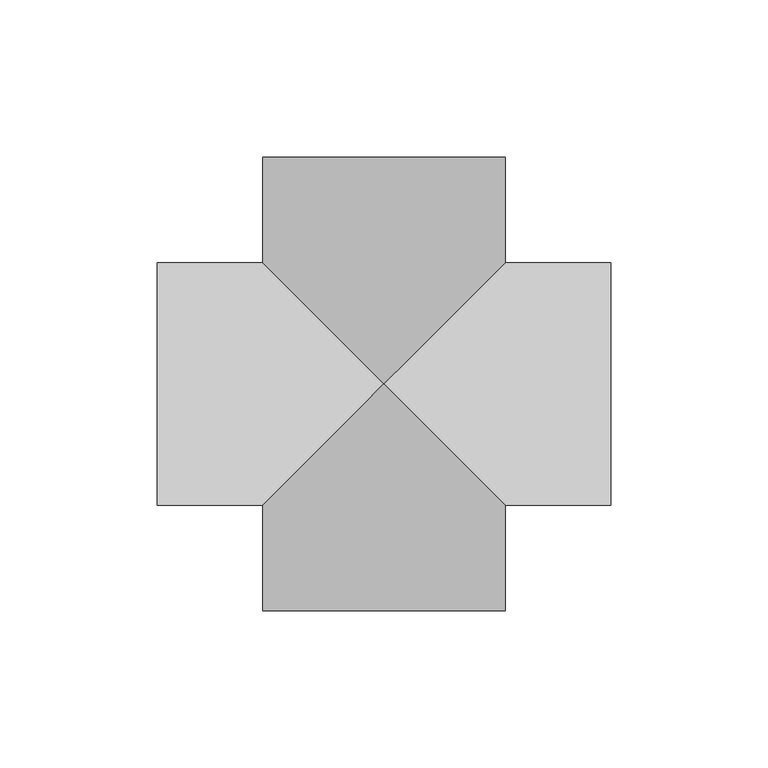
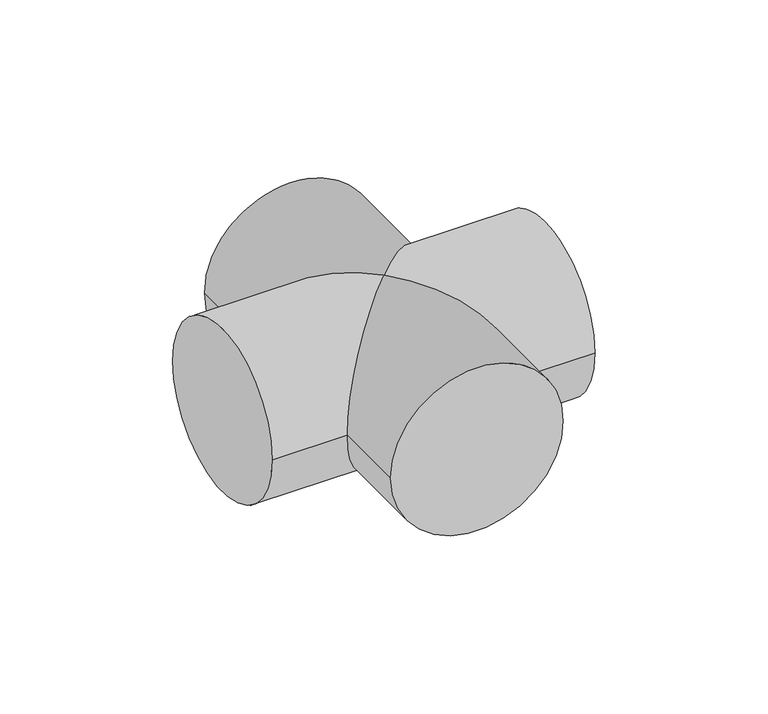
"""IFC4 building model written with IfcOpenShell, lengths in millimetres: pipe fitting geometry, 01051068 : Cruces."""

from ifc_helpers import new_model, si_unit, frame, origin, place, context, project, spatial, circle_curve, ellipse_curve, source, transform, mapped, element, save
from ifc_brep_helpers import plane_surface, cylinder_surface, advanced_brep


def pipe_fitting_58a56537(model_context):
    return source(origin(), model_context, "Body", "AdvancedBrep", [
        advanced_brep(
        [(-38.5, 72.0, 0.0), (38.5, 72.0, 0.0), (-38.5, -72.0, 0.0), (38.5, -72.0, 0.0), (-38.5, 38.5, 0.0), (0.0, 0.0, 38.5), (38.5, 38.5, 0.0), (38.5, -38.5, 0.0), (-38.5, -38.5, 0.0), (0.0, 0.0, -38.5), (72.0, 38.5, 0.0), (72.0, -38.5, 0.0), (-72.0, 38.5, 0.0), (-72.0, -38.5, 0.0)],
        [
            (0, 1, circle_curve(frame((0.0, 72.0, 0.0), z_axis=(0.0, 1.0, 0.0), x_axis=(1.0, 0.0, 0.0)), 38.5)),
            (1, 0, circle_curve(frame((0.0, 72.0, 0.0), z_axis=(0.0, 1.0, 0.0), x_axis=(1.0, 0.0, 0.0)), 38.5)),
            (2, 3, circle_curve(frame((0.0, -72.0, 0.0), z_axis=(0.0, -1.0, 0.0), x_axis=(1.0, 0.0, 0.0)), 38.5)),
            (3, 2, circle_curve(frame((0.0, -72.0, 0.0), z_axis=(0.0, -1.0, 0.0), x_axis=(1.0, 0.0, 0.0)), 38.5)),
            (0, 4),
            (4, 5, ellipse_curve(frame((0.0, 0.0, 0.0), z_axis=(0.7071067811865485, 0.7071067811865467, 0.0), x_axis=(-0.7071067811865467, 0.7071067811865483, 0.0)), 54.4472222, 38.5)),
            (5, 6, ellipse_curve(frame((0.0, 0.0, 0.0), z_axis=(-0.7071067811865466, 0.7071067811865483, 0.0), x_axis=(0.7071067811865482, 0.7071067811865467, 0.0)), 54.4472222, 38.5)),
            (6, 1),
            (3, 7),
            (7, 5, ellipse_curve(frame((0.0, 0.0, 0.0), z_axis=(-0.7071067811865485, -0.7071067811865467, 0.0), x_axis=(-0.7071067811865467, 0.7071067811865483, 0.0)), 54.4472222, 38.5)),
            (5, 8, ellipse_curve(frame((0.0, 0.0, 0.0), z_axis=(0.7071067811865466, -0.7071067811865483, 0.0), x_axis=(0.7071067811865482, 0.7071067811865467, 0.0)), 54.4472222, 38.5)),
            (8, 2),
            (6, 9, ellipse_curve(frame((0.0, 0.0, 0.0), z_axis=(-0.7071067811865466, 0.7071067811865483, 0.0), x_axis=(0.7071067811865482, 0.7071067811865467, 0.0)), 54.4472222, 38.5)),
            (9, 4, ellipse_curve(frame((0.0, 0.0, 0.0), z_axis=(0.7071067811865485, 0.7071067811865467, 0.0), x_axis=(-0.7071067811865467, 0.7071067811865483, 0.0)), 54.4472222, 38.5)),
            (8, 9, ellipse_curve(frame((0.0, 0.0, 0.0), z_axis=(0.7071067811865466, -0.7071067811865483, 0.0), x_axis=(0.7071067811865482, 0.7071067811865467, 0.0)), 54.4472222, 38.5)),
            (9, 7, ellipse_curve(frame((0.0, 0.0, 0.0), z_axis=(-0.7071067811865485, -0.7071067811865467, 0.0), x_axis=(-0.7071067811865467, 0.7071067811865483, 0.0)), 54.4472222, 38.5)),
            (10, 11, circle_curve(frame((72.0, 0.0, 0.0), z_axis=(1.0, 0.0, 0.0), x_axis=(0.0, -1.0, 0.0)), 38.5)),
            (11, 10, circle_curve(frame((72.0, 0.0, 0.0), z_axis=(1.0, 0.0, 0.0), x_axis=(0.0, -1.0, 0.0)), 38.5)),
            (12, 13, circle_curve(frame((-72.0, 0.0, 0.0), z_axis=(-1.0, 0.0, 0.0), x_axis=(0.0, -1.0, 0.0)), 38.5)),
            (13, 12, circle_curve(frame((-72.0, 0.0, 0.0), z_axis=(-1.0, 0.0, 0.0), x_axis=(0.0, -1.0, 0.0)), 38.5)),
            (10, 6),
            (7, 11),
            (13, 8),
            (4, 12),
        ],
        [
            plane_surface(frame((0.0, 72.0, 0.0), z_axis=(0.0, 1.0, 0.0), x_axis=(0.0, 0.0, 1.0))),
            plane_surface(frame((0.0, -72.0, 0.0), z_axis=(0.0, -1.0, 0.0), x_axis=(0.0, 0.0, 1.0))),
            cylinder_surface(frame((0.0, 72.0, 0.0), z_axis=(0.0, 1.0, 0.0), x_axis=(1.0, 0.0, 0.0)), 38.5),
            plane_surface(frame((72.0, 0.0, 0.0), z_axis=(1.0, 0.0, 0.0), x_axis=(0.0, 0.0, 1.0))),
            plane_surface(frame((-72.0, 0.0, 0.0), z_axis=(-1.0, 0.0, 0.0), x_axis=(0.0, 0.0, 1.0))),
            cylinder_surface(frame((72.0, 0.0, 0.0), z_axis=(1.0, 0.0, 0.0), x_axis=(0.0, -1.0, 0.0)), 38.5),
        ],
        [
            (0, [[1, 2]]),
            (1, [[3, 4]]),
            (2, [[-1, 5, 6, 7, 8]]),
            (2, [[-4, 9, 10, 11, 12]]),
            (2, [[-2, -8, 13, 14, -5]]),
            (2, [[-3, -12, 15, 16, -9]]),
            (3, [[17, 18]]),
            (4, [[19, 20]]),
            (5, [[-17, 21, -7, -10, 22]]),
            (5, [[-20, 23, -11, -6, 24]]),
            (5, [[-18, -22, -16, -13, -21]]),
            (5, [[-19, -24, -14, -15, -23]]),
        ],
    ),
    ])


if __name__ == "__main__":
    model = new_model("IFC4")
    model_context = context("Model", 3, world=origin())
    ifc_project = project(units=[si_unit("LENGTHUNIT", "METRE", prefix="MILLI")], contexts=[model_context])
    site = spatial("IfcSite", under=ifc_project)
    building = spatial("IfcBuilding", under=site)
    placement = place(None, origin())
    pipe_fitting_shape = pipe_fitting_58a56537(model_context)
    element("IfcPipeFitting", 1, ObjectType="01051068 : Cruces", at=placement, inside=building, context=model_context, shape_type="MappedRepresentation", body=[
        mapped(pipe_fitting_shape, transform((0.0, 0.0, 0.0), x_axis=(1.0, 0.0, 0.0), y_axis=(0.0, 1.0, 0.0), z_axis=(0.0, 0.0, 1.0))),
    ])
    save(model, "model.ifc")
